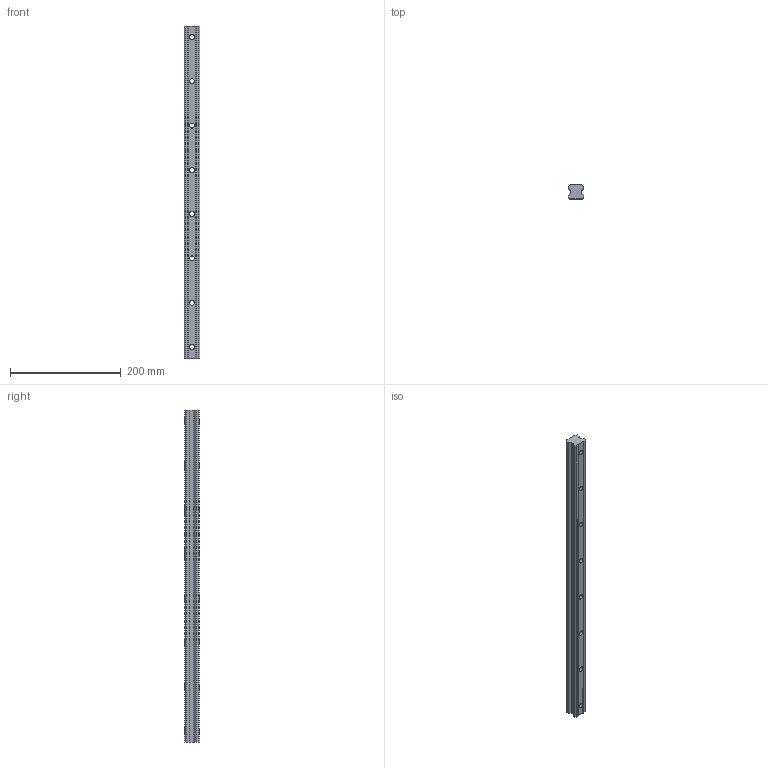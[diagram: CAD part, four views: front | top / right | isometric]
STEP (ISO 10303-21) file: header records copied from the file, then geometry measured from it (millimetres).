
FILE_DESCRIPTION(('STEP AP214'), '1');
FILE_NAME('HGR30CA - 凎錪黟', '', ('UNSPECIFIED'), ('UNSPECIFIED'), 'ASCON STEP Converter 1.3', 'ASCON Math Kernel', '');
FILE_SCHEMA(('AUTOMOTIVE_DESIGN { 1 0 10303 214 3 1 1}'));
Length unit declared in the file: millimetre
Products named in the file (1): HGR30CA
Bounding box: 28 x 26 x 600 mm (x, y, z)
Volume: 355271.8 mm3; surface area: 75228.1 mm2
Topology: 1 solids, 1 shells, 50 faces, 120 edges, 80 vertices
Faces by surface type: plane 34, cylinder 16
Full cylindrical faces by diameter (mm): 9 x8, 14 x8
Entity records: 1852 total; most frequent: DIRECTION 238, CARTESIAN_POINT 235, ORIENTED_EDGE 208, EDGE_CURVE 104, EDGE_LOOP 90, AXIS2_PLACEMENT_3D 83, VERTEX_POINT 80, LINE 72
